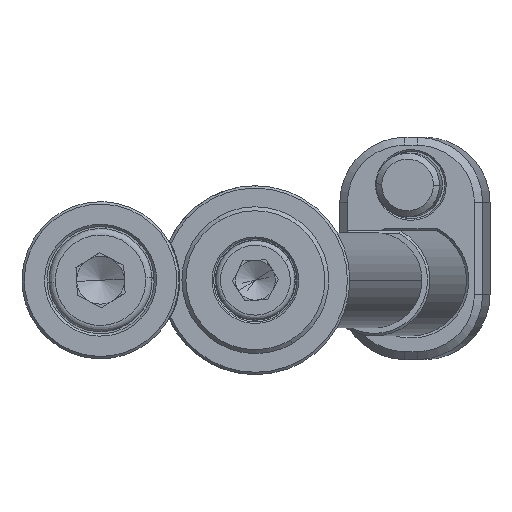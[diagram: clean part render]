
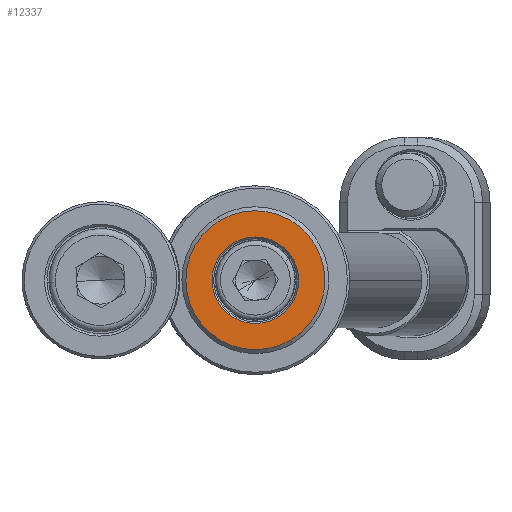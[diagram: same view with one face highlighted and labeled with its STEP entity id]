
A CAD part, front view. The second image highlights one B-rep face of the part: STEP entity #12337.
In plain terms, the highlighted planar face has unit normal (0, -1, 0).
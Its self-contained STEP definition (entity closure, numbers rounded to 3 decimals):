
#81 = DIRECTION ( 'NONE',  ( -0.505, 0., 0.863 ) ) ;
#196 = CARTESIAN_POINT ( 'NONE',  ( 2.753, -4., -4.704 ) ) ;
#711 = CARTESIAN_POINT ( 'NONE',  ( -4.42, -4., 7.552 ) ) ;
#963 = EDGE_LOOP ( 'NONE', ( #12409, #11023 ) ) ;
#1192 = FACE_BOUND ( 'NONE', #963, .T. ) ;
#1489 = DIRECTION ( 'NONE',  ( -0.505, 0., 0.863 ) ) ;
#1500 = CIRCLE ( 'NONE', #6848, 5.45 ) ;
#1685 = CARTESIAN_POINT ( 'NONE',  ( 0., -4., 0. ) ) ;
#2230 = DIRECTION ( 'NONE',  ( 0., -1., 0. ) ) ;
#2252 = EDGE_CURVE ( 'NONE', #6174, #6152, #12457, .T. ) ;
#3104 = FACE_OUTER_BOUND ( 'NONE', #4815, .T. ) ;
#3107 = ORIENTED_EDGE ( 'NONE', *, *, #12088, .T. ) ;
#3389 = DIRECTION ( 'NONE',  ( -0.505, 0., 0.863 ) ) ;
#3679 = ORIENTED_EDGE ( 'NONE', *, *, #12377, .T. ) ;
#3710 = CIRCLE ( 'NONE', #9273, 8.75 ) ;
#3797 = CARTESIAN_POINT ( 'NONE',  ( -2.753, -4., 4.704 ) ) ;
#4042 = EDGE_CURVE ( 'NONE', #6152, #6174, #1500, .T. ) ;
#4284 = DIRECTION ( 'NONE',  ( 0., 1., 0. ) ) ;
#4443 = AXIS2_PLACEMENT_3D ( 'NONE', #12186, #2230, #6681 ) ;
#4561 = VERTEX_POINT ( 'NONE', #711 ) ;
#4815 = EDGE_LOOP ( 'NONE', ( #3107, #3679 ) ) ;
#5512 = AXIS2_PLACEMENT_3D ( 'NONE', #7033, #5720, #1489 ) ;
#5533 = DIRECTION ( 'NONE',  ( 0., -1., 0. ) ) ;
#5720 = DIRECTION ( 'NONE',  ( 0., 1., 0. ) ) ;
#6152 = VERTEX_POINT ( 'NONE', #196 ) ;
#6174 = VERTEX_POINT ( 'NONE', #3797 ) ;
#6681 = DIRECTION ( 'NONE',  ( -0.505, 0., 0.863 ) ) ;
#6848 = AXIS2_PLACEMENT_3D ( 'NONE', #1685, #8109, #9380 ) ;
#7033 = CARTESIAN_POINT ( 'NONE',  ( 0., -4., 0. ) ) ;
#7695 = CARTESIAN_POINT ( 'NONE',  ( -4.531, -4., -2.652 ) ) ;
#8109 = DIRECTION ( 'NONE',  ( 0., 1., 0. ) ) ;
#8195 = VERTEX_POINT ( 'NONE', #9032 ) ;
#9032 = CARTESIAN_POINT ( 'NONE',  ( 4.42, -4., -7.552 ) ) ;
#9273 = AXIS2_PLACEMENT_3D ( 'NONE', #13218, #5533, #81 ) ;
#9380 = DIRECTION ( 'NONE',  ( -0.505, 0., 0.863 ) ) ;
#10691 = CIRCLE ( 'NONE', #4443, 8.75 ) ;
#11023 = ORIENTED_EDGE ( 'NONE', *, *, #2252, .T. ) ;
#12088 = EDGE_CURVE ( 'NONE', #4561, #8195, #3710, .T. ) ;
#12186 = CARTESIAN_POINT ( 'NONE',  ( 0., -4., 0. ) ) ;
#12337 = ADVANCED_FACE ( 'NONE', ( #1192, #3104 ), #13058, .F. ) ;
#12377 = EDGE_CURVE ( 'NONE', #8195, #4561, #10691, .T. ) ;
#12409 = ORIENTED_EDGE ( 'NONE', *, *, #4042, .T. ) ;
#12457 = CIRCLE ( 'NONE', #5512, 5.45 ) ;
#13058 = PLANE ( 'NONE',  #14173 ) ;
#13218 = CARTESIAN_POINT ( 'NONE',  ( 0., -4., 0. ) ) ;
#14173 = AXIS2_PLACEMENT_3D ( 'NONE', #7695, #4284, #3389 ) ;
